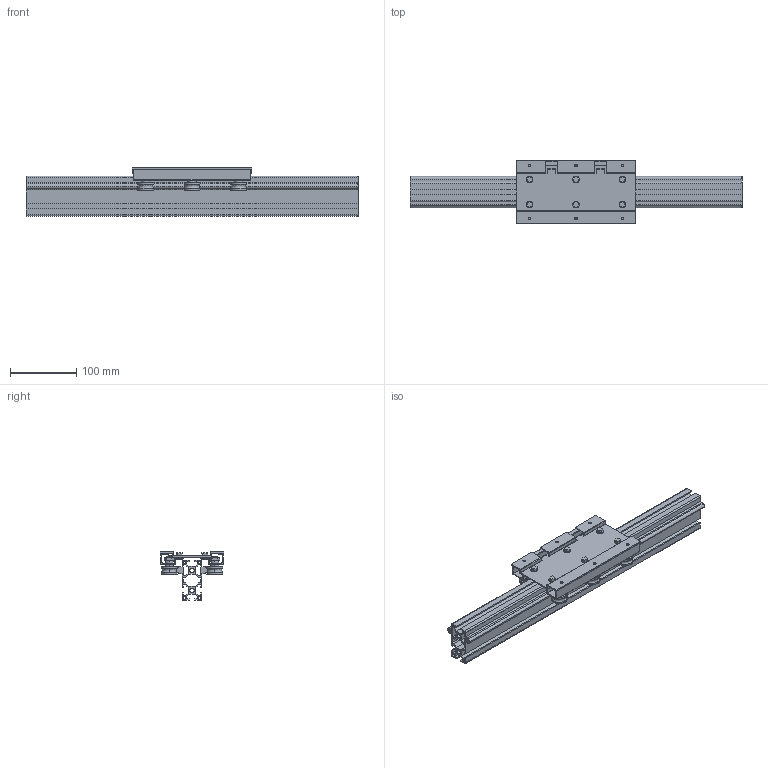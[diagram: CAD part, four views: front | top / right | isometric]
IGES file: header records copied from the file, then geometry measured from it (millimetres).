
Global section: file name: No Iges File Name specified; native system: AutoDesk Inventor R11.0; preprocessor: AutoDesk Inventor Iges Exporter R11.0; author: No Author specified; organization: No Organization specified; date: 20170802.093526; units: millimetre
Bounding box: 500 x 96 x 73 mm (x, y, z)
Surface area: 379525.3 mm2 (no closed solid volume)
Topology: 0 solids, 0 shells, 587 faces, 3532 edges, 3532 vertices
Faces by surface type: bspline 587
